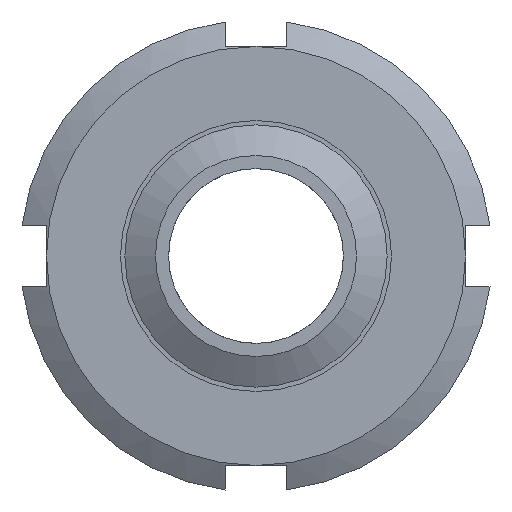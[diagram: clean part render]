
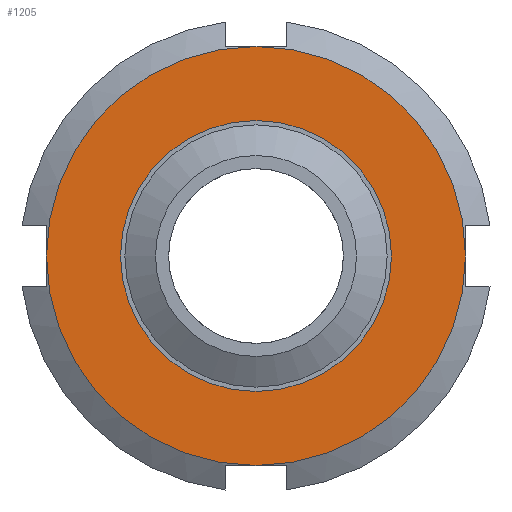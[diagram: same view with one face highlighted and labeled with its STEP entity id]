
A CAD part, front view. The second image highlights one B-rep face of the part: STEP entity #1205.
In plain terms, the highlighted planar face has unit normal (0, -1, 0) as drawn and (1, 0, 0) by its records, which use the part's own axes.
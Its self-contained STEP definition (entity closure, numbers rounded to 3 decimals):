
#170=FACE_BOUND('',#321,.T.);
#194=PLANE('',#1489);
#251=FACE_OUTER_BOUND('',#320,.T.);
#320=EDGE_LOOP('',(#1069,#1070));
#321=EDGE_LOOP('',(#1071,#1072));
#431=CIRCLE('',#1487,23.972);
#432=CIRCLE('',#1488,23.972);
#433=CIRCLE('',#1490,15.5);
#434=CIRCLE('',#1491,15.5);
#559=VERTEX_POINT('',#2298);
#560=VERTEX_POINT('',#2299);
#561=VERTEX_POINT('',#2304);
#562=VERTEX_POINT('',#2305);
#731=EDGE_CURVE('',#559,#560,#431,.T.);
#732=EDGE_CURVE('',#560,#559,#432,.T.);
#734=EDGE_CURVE('',#561,#562,#433,.T.);
#735=EDGE_CURVE('',#562,#561,#434,.T.);
#1069=ORIENTED_EDGE('',*,*,#731,.T.);
#1070=ORIENTED_EDGE('',*,*,#732,.T.);
#1071=ORIENTED_EDGE('',*,*,#734,.F.);
#1072=ORIENTED_EDGE('',*,*,#735,.F.);
#1205=ADVANCED_FACE('',(#251,#170),#194,.T.);
#1487=AXIS2_PLACEMENT_3D('',#2300,#1863,#1864);
#1488=AXIS2_PLACEMENT_3D('',#2301,#1865,#1866);
#1489=AXIS2_PLACEMENT_3D('',#2303,#1868,#1869);
#1490=AXIS2_PLACEMENT_3D('',#2306,#1870,#1871);
#1491=AXIS2_PLACEMENT_3D('',#2307,#1872,#1873);
#1863=DIRECTION('center_axis',(1.,0.,0.));
#1864=DIRECTION('ref_axis',(0.,0.,-1.));
#1865=DIRECTION('center_axis',(1.,0.,0.));
#1866=DIRECTION('ref_axis',(0.,0.,-1.));
#1868=DIRECTION('center_axis',(1.,0.,0.));
#1869=DIRECTION('ref_axis',(0.,0.,-1.));
#1870=DIRECTION('center_axis',(1.,0.,0.));
#1871=DIRECTION('ref_axis',(0.,0.,-1.));
#1872=DIRECTION('center_axis',(1.,0.,0.));
#1873=DIRECTION('ref_axis',(0.,0.,-1.));
#2298=CARTESIAN_POINT('',(20.,23.972,0.));
#2299=CARTESIAN_POINT('',(20.,-23.972,0.));
#2300=CARTESIAN_POINT('Origin',(20.,0.,0.));
#2301=CARTESIAN_POINT('Origin',(20.,0.,0.));
#2303=CARTESIAN_POINT('Origin',(20.,15.5,0.));
#2304=CARTESIAN_POINT('',(20.,15.5,0.));
#2305=CARTESIAN_POINT('',(20.,-15.5,0.));
#2306=CARTESIAN_POINT('Origin',(20.,0.,0.));
#2307=CARTESIAN_POINT('Origin',(20.,0.,0.));
